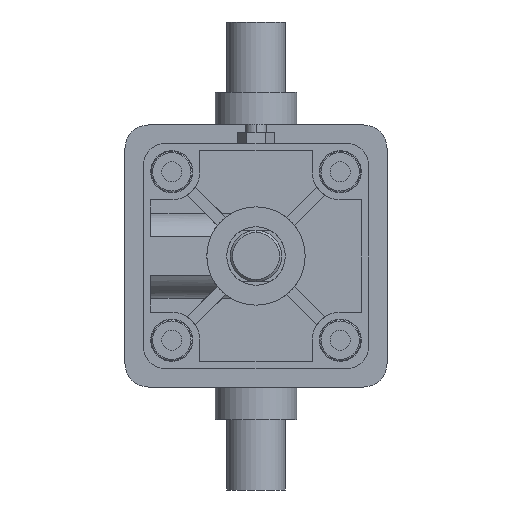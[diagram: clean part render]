
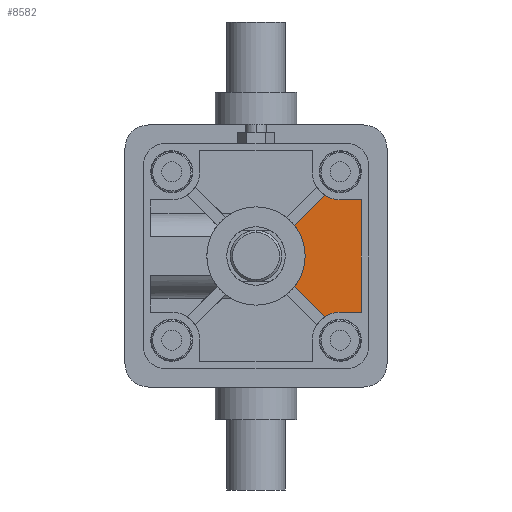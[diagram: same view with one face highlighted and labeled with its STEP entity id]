
A CAD part, left-side view. The second image highlights one B-rep face of the part: STEP entity #8582.
In plain terms, the highlighted planar face has unit normal (-1, 0, 0) as drawn and (1, 0, 0) by its records, which use the part's own axes.
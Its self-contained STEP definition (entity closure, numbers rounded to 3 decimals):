
#219 = EDGE_LOOP ( 'NONE', ( #4302, #621, #3715, #3140, #2623, #4807, #9378, #3464 ) ) ;
#355 = DIRECTION ( 'NONE',  ( 0., 0.707, -0.707 ) ) ;
#374 = DIRECTION ( 'NONE',  ( 0., 0., -1. ) ) ;
#473 = LINE ( 'NONE', #1835, #8748 ) ;
#621 = ORIENTED_EDGE ( 'NONE', *, *, #3618, .F. ) ;
#803 = DIRECTION ( 'NONE',  ( 0., -1., 0. ) ) ;
#1043 = VERTEX_POINT ( 'NONE', #3074 ) ;
#1119 = VERTEX_POINT ( 'NONE', #2566 ) ;
#1406 = CARTESIAN_POINT ( 'NONE',  ( -3., -29.469, -25.933 ) ) ;
#1466 = VERTEX_POINT ( 'NONE', #1674 ) ;
#1674 = CARTESIAN_POINT ( 'NONE',  ( -3., -36., 24. ) ) ;
#1682 = DIRECTION ( 'NONE',  ( 1., 0., 0. ) ) ;
#1708 = LINE ( 'NONE', #8339, #8579 ) ;
#1835 = CARTESIAN_POINT ( 'NONE',  ( -3., 0., -24. ) ) ;
#2007 = CARTESIAN_POINT ( 'NONE',  ( -3., -36., -24. ) ) ;
#2047 = CARTESIAN_POINT ( 'NONE',  ( -3., -1.768, -1.768 ) ) ;
#2336 = AXIS2_PLACEMENT_3D ( 'NONE', #3416, #9810, #6113 ) ;
#2417 = FACE_OUTER_BOUND ( 'NONE', #219, .T. ) ;
#2554 = DIRECTION ( 'NONE',  ( 0., 0., -1. ) ) ;
#2566 = CARTESIAN_POINT ( 'NONE',  ( -3., -45., -24. ) ) ;
#2623 = ORIENTED_EDGE ( 'NONE', *, *, #8336, .F. ) ;
#3074 = CARTESIAN_POINT ( 'NONE',  ( -3., -16.511, 12.976 ) ) ;
#3140 = ORIENTED_EDGE ( 'NONE', *, *, #3960, .T. ) ;
#3362 = VERTEX_POINT ( 'NONE', #7659 ) ;
#3416 = CARTESIAN_POINT ( 'NONE',  ( -3., 0., 0. ) ) ;
#3464 = ORIENTED_EDGE ( 'NONE', *, *, #9047, .T. ) ;
#3513 = DIRECTION ( 'NONE',  ( -1., 0., 0. ) ) ;
#3618 = EDGE_CURVE ( 'NONE', #1466, #3836, #6247, .T. ) ;
#3715 = ORIENTED_EDGE ( 'NONE', *, *, #4778, .T. ) ;
#3759 = CARTESIAN_POINT ( 'NONE',  ( -3., 0., 0. ) ) ;
#3816 = EDGE_CURVE ( 'NONE', #3836, #1043, #4929, .T. ) ;
#3836 = VERTEX_POINT ( 'NONE', #4432 ) ;
#3875 = LINE ( 'NONE', #4222, #8002 ) ;
#3960 = EDGE_CURVE ( 'NONE', #3362, #1119, #1708, .T. ) ;
#4222 = CARTESIAN_POINT ( 'NONE',  ( -3., -1.768, 1.768 ) ) ;
#4302 = ORIENTED_EDGE ( 'NONE', *, *, #3816, .F. ) ;
#4432 = CARTESIAN_POINT ( 'NONE',  ( -3., -29.469, 25.933 ) ) ;
#4570 = CIRCLE ( 'NONE', #8323, 12. ) ;
#4778 = EDGE_CURVE ( 'NONE', #1466, #3362, #10103, .T. ) ;
#4807 = ORIENTED_EDGE ( 'NONE', *, *, #9604, .T. ) ;
#4929 = LINE ( 'NONE', #2047, #5417 ) ;
#4959 = DIRECTION ( 'NONE',  ( 1., 0., 0. ) ) ;
#5417 = VECTOR ( 'NONE', #355, 1000. ) ;
#5714 = AXIS2_PLACEMENT_3D ( 'NONE', #3759, #4959, #374 ) ;
#5805 = DIRECTION ( 'NONE',  ( 0., 0., -1. ) ) ;
#6113 = DIRECTION ( 'NONE',  ( 0., 0., -1. ) ) ;
#6247 = CIRCLE ( 'NONE', #7988, 12. ) ;
#6406 = CIRCLE ( 'NONE', #2336, 21. ) ;
#6734 = CARTESIAN_POINT ( 'NONE',  ( -3., -16.511, -12.976 ) ) ;
#7078 = VERTEX_POINT ( 'NONE', #2007 ) ;
#7224 = VERTEX_POINT ( 'NONE', #1406 ) ;
#7383 = DIRECTION ( 'NONE',  ( 0., 0., -1. ) ) ;
#7481 = PLANE ( 'NONE',  #5714 ) ;
#7659 = CARTESIAN_POINT ( 'NONE',  ( -3., -45., 24. ) ) ;
#7900 = CARTESIAN_POINT ( 'NONE',  ( -3., -36., -36. ) ) ;
#7947 = DIRECTION ( 'NONE',  ( 0., -0.707, -0.707 ) ) ;
#7988 = AXIS2_PLACEMENT_3D ( 'NONE', #9959, #1682, #2554 ) ;
#8002 = VECTOR ( 'NONE', #7947, 1000. ) ;
#8309 = VECTOR ( 'NONE', #9287, 1000. ) ;
#8323 = AXIS2_PLACEMENT_3D ( 'NONE', #7900, #3513, #7383 ) ;
#8336 = EDGE_CURVE ( 'NONE', #7078, #1119, #473, .T. ) ;
#8339 = CARTESIAN_POINT ( 'NONE',  ( -3., -45., 0. ) ) ;
#8579 = VECTOR ( 'NONE', #5805, 1000. ) ;
#8582 = ADVANCED_FACE ( 'NONE', ( #2417 ), #7481, .T. ) ;
#8748 = VECTOR ( 'NONE', #803, 1000. ) ;
#8949 = VERTEX_POINT ( 'NONE', #6734 ) ;
#9047 = EDGE_CURVE ( 'NONE', #8949, #1043, #6406, .T. ) ;
#9287 = DIRECTION ( 'NONE',  ( 0., -1., 0. ) ) ;
#9378 = ORIENTED_EDGE ( 'NONE', *, *, #10001, .F. ) ;
#9604 = EDGE_CURVE ( 'NONE', #7078, #7224, #4570, .T. ) ;
#9609 = CARTESIAN_POINT ( 'NONE',  ( -3., 0., 24. ) ) ;
#9810 = DIRECTION ( 'NONE',  ( -1., 0., 0. ) ) ;
#9959 = CARTESIAN_POINT ( 'NONE',  ( -3., -36., 36. ) ) ;
#10001 = EDGE_CURVE ( 'NONE', #8949, #7224, #3875, .T. ) ;
#10103 = LINE ( 'NONE', #9609, #8309 ) ;
